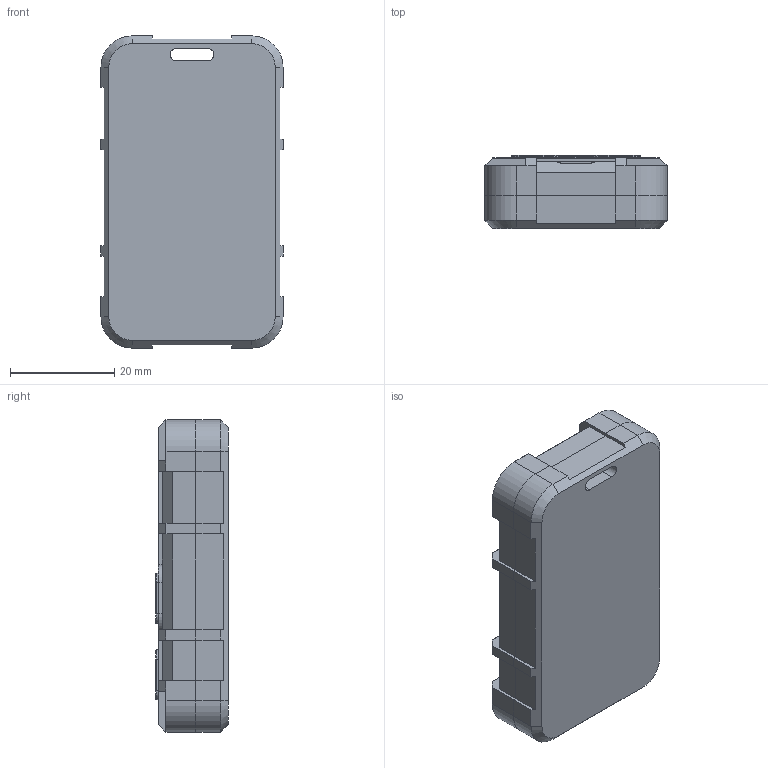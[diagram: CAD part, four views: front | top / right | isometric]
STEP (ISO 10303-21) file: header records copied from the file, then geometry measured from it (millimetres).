
FILE_DESCRIPTION (( 'STEP AP203' ), '1' );
FILE_NAME ('keyfob.STEP', '2019-03-20T16:41:52', ( '' ), ( '' ), 'SwSTEP 2.0', 'SolidWorks 2017', '' );
FILE_SCHEMA (( 'CONFIG_CONTROL_DESIGN' ));
Length unit declared in the file: millimetre
Products named in the file (1): keyfob
Bounding box: 35 x 14 x 60 mm (x, y, z)
Volume: 16339.3 mm3; surface area: 16605.4 mm2
Topology: 12 solids, 12 shells, 512 faces, 1297 edges, 828 vertices
Faces by surface type: plane 267, cylinder 200, torus 34, bspline 7, cone 4
Entity records: 15788 total; most frequent: CARTESIAN_POINT 3339, ORIENTED_EDGE 2594, DIRECTION 2549, EDGE_CURVE 1297, LINE 865, VECTOR 865, AXIS2_PLACEMENT_3D 842, VERTEX_POINT 828
